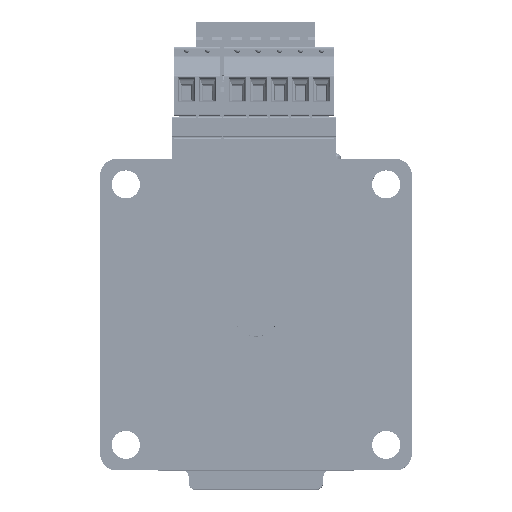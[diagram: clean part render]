
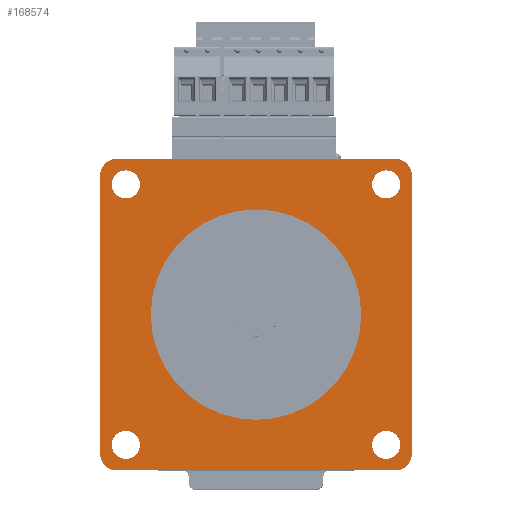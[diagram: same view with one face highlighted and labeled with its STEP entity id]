
A CAD part, top view. The second image highlights one B-rep face of the part: STEP entity #168574.
In plain terms, the highlighted planar face has unit normal (0, 0, 1).
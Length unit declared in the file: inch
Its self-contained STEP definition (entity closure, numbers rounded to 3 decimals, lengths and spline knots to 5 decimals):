
#11307=PLANE('',#180179);
#28687=VECTOR('',#215470,1.);
#28688=VECTOR('',#215473,1.);
#28689=VECTOR('',#215476,1.);
#28690=VECTOR('',#215479,1.);
#46127=LINE('',#301932,#28687);
#46128=LINE('',#301937,#28688);
#46129=LINE('',#301941,#28689);
#46130=LINE('',#301945,#28690);
#62326=VERTEX_POINT('',#301933);
#62327=VERTEX_POINT('',#301934);
#62328=VERTEX_POINT('',#301936);
#62329=VERTEX_POINT('',#301938);
#62330=VERTEX_POINT('',#301940);
#62331=VERTEX_POINT('',#301942);
#62332=VERTEX_POINT('',#301944);
#62333=VERTEX_POINT('',#301946);
#62334=VERTEX_POINT('',#301949);
#62335=VERTEX_POINT('',#301951);
#62336=VERTEX_POINT('',#301953);
#62337=VERTEX_POINT('',#301955);
#62338=VERTEX_POINT('',#301957);
#66443=CIRCLE('',#180180,0.11811);
#66444=CIRCLE('',#180181,0.11811);
#66445=CIRCLE('',#180182,0.11811);
#66446=CIRCLE('',#180183,0.11811);
#66447=CIRCLE('',#180184,0.10039);
#66448=CIRCLE('',#180185,0.10039);
#66449=CIRCLE('',#180186,0.10039);
#66450=CIRCLE('',#180187,0.10039);
#66451=CIRCLE('',#180188,0.75);
#91097=EDGE_CURVE('',#62326,#62327,#46127,.T.);
#91098=EDGE_CURVE('',#62327,#62328,#66443,.T.);
#91099=EDGE_CURVE('',#62328,#62329,#46128,.T.);
#91100=EDGE_CURVE('',#62329,#62330,#66444,.T.);
#91101=EDGE_CURVE('',#62330,#62331,#46129,.T.);
#91102=EDGE_CURVE('',#62331,#62332,#66445,.T.);
#91103=EDGE_CURVE('',#62332,#62333,#46130,.T.);
#91104=EDGE_CURVE('',#62333,#62326,#66446,.T.);
#91105=EDGE_CURVE('',#62334,#62334,#66447,.T.);
#91106=EDGE_CURVE('',#62335,#62335,#66448,.T.);
#91107=EDGE_CURVE('',#62336,#62336,#66449,.T.);
#91108=EDGE_CURVE('',#62337,#62337,#66450,.T.);
#91109=EDGE_CURVE('',#62338,#62338,#66451,.T.);
#140399=ORIENTED_EDGE('',*,*,#91097,.T.);
#140400=ORIENTED_EDGE('',*,*,#91098,.T.);
#140401=ORIENTED_EDGE('',*,*,#91099,.T.);
#140402=ORIENTED_EDGE('',*,*,#91100,.T.);
#140403=ORIENTED_EDGE('',*,*,#91101,.T.);
#140404=ORIENTED_EDGE('',*,*,#91102,.T.);
#140405=ORIENTED_EDGE('',*,*,#91103,.T.);
#140406=ORIENTED_EDGE('',*,*,#91104,.T.);
#140407=ORIENTED_EDGE('',*,*,#91105,.F.);
#140408=ORIENTED_EDGE('',*,*,#91106,.F.);
#140409=ORIENTED_EDGE('',*,*,#91107,.F.);
#140410=ORIENTED_EDGE('',*,*,#91108,.F.);
#140411=ORIENTED_EDGE('',*,*,#91109,.F.);
#150194=EDGE_LOOP('',(#140399,#140400,#140401,#140402,#140403,#140404,#140405,
#140406));
#150195=EDGE_LOOP('',(#140407));
#150196=EDGE_LOOP('',(#140408));
#150197=EDGE_LOOP('',(#140409));
#150198=EDGE_LOOP('',(#140410));
#150199=EDGE_LOOP('',(#140411));
#159706=FACE_BOUND('',#150194,.T.);
#159707=FACE_BOUND('',#150195,.T.);
#159708=FACE_BOUND('',#150196,.T.);
#159709=FACE_BOUND('',#150197,.T.);
#159710=FACE_BOUND('',#150198,.T.);
#159711=FACE_BOUND('',#150199,.T.);
#168574=ADVANCED_FACE('',(#159706,#159707,#159708,#159709,#159710,#159711),
#11307,.T.);
#180179=AXIS2_PLACEMENT_3D('',#301931,#215469,$);
#180180=AXIS2_PLACEMENT_3D('',#301935,#215471,#215472);
#180181=AXIS2_PLACEMENT_3D('',#301939,#215474,#215475);
#180182=AXIS2_PLACEMENT_3D('',#301943,#215477,#215478);
#180183=AXIS2_PLACEMENT_3D('',#301947,#215480,#215481);
#180184=AXIS2_PLACEMENT_3D('',#301948,#215482,#215483);
#180185=AXIS2_PLACEMENT_3D('',#301950,#215484,#215485);
#180186=AXIS2_PLACEMENT_3D('',#301952,#215486,#215487);
#180187=AXIS2_PLACEMENT_3D('',#301954,#215488,#215489);
#180188=AXIS2_PLACEMENT_3D('',#301956,#215490,#215491);
#215469=DIRECTION('',(0.,0.,1.));
#215470=DIRECTION('',(0.,-1.,0.));
#215471=DIRECTION('',(0.,0.,1.));
#215472=DIRECTION('',(0.118,0.,0.));
#215473=DIRECTION('',(1.,0.,0.));
#215474=DIRECTION('',(0.,0.,1.));
#215475=DIRECTION('',(0.118,0.,0.));
#215476=DIRECTION('',(0.,1.,0.));
#215477=DIRECTION('',(0.,0.,1.));
#215478=DIRECTION('',(0.118,0.,0.));
#215479=DIRECTION('',(-1.,0.,0.));
#215480=DIRECTION('',(0.,0.,1.));
#215481=DIRECTION('',(0.118,0.,0.));
#215482=DIRECTION('',(0.,0.,1.));
#215483=DIRECTION('',(0.1,0.,0.));
#215484=DIRECTION('',(0.,0.,1.));
#215485=DIRECTION('',(0.1,0.,0.));
#215486=DIRECTION('',(0.,0.,1.));
#215487=DIRECTION('',(0.1,0.,0.));
#215488=DIRECTION('',(0.,0.,1.));
#215489=DIRECTION('',(0.1,0.,0.));
#215490=DIRECTION('',(0.,0.,1.));
#215491=DIRECTION('',(0.75,0.,0.));
#301931=CARTESIAN_POINT('',(0.,0.,0.));
#301932=CARTESIAN_POINT('',(-1.11024,0.99213,0.));
#301933=CARTESIAN_POINT('',(-1.11024,0.99213,0.));
#301934=CARTESIAN_POINT('',(-1.11024,-0.99213,0.));
#301935=CARTESIAN_POINT('',(-0.99213,-0.99213,0.));
#301936=CARTESIAN_POINT('',(-0.99213,-1.11024,0.));
#301937=CARTESIAN_POINT('',(-0.99213,-1.11024,0.));
#301938=CARTESIAN_POINT('',(0.99213,-1.11024,0.));
#301939=CARTESIAN_POINT('',(0.99213,-0.99213,0.));
#301940=CARTESIAN_POINT('',(1.11024,-0.99213,0.));
#301941=CARTESIAN_POINT('',(1.11024,-0.99213,0.));
#301942=CARTESIAN_POINT('',(1.11024,0.99213,0.));
#301943=CARTESIAN_POINT('',(0.99213,0.99213,0.));
#301944=CARTESIAN_POINT('',(0.99213,1.11024,0.));
#301945=CARTESIAN_POINT('',(0.99213,1.11024,0.));
#301946=CARTESIAN_POINT('',(-0.99213,1.11024,0.));
#301947=CARTESIAN_POINT('',(-0.99213,0.99213,0.));
#301948=CARTESIAN_POINT('',(0.92795,-0.92795,0.));
#301949=CARTESIAN_POINT('',(1.02835,-0.92795,0.));
#301950=CARTESIAN_POINT('',(0.92795,0.92795,0.));
#301951=CARTESIAN_POINT('',(1.02835,0.92795,0.));
#301952=CARTESIAN_POINT('',(-0.92795,0.92795,0.));
#301953=CARTESIAN_POINT('',(-0.82756,0.92795,0.));
#301954=CARTESIAN_POINT('',(-0.92795,-0.92795,0.));
#301955=CARTESIAN_POINT('',(-0.82756,-0.92795,0.));
#301956=CARTESIAN_POINT('',(0.,0.,0.));
#301957=CARTESIAN_POINT('',(0.75,0.,0.));
